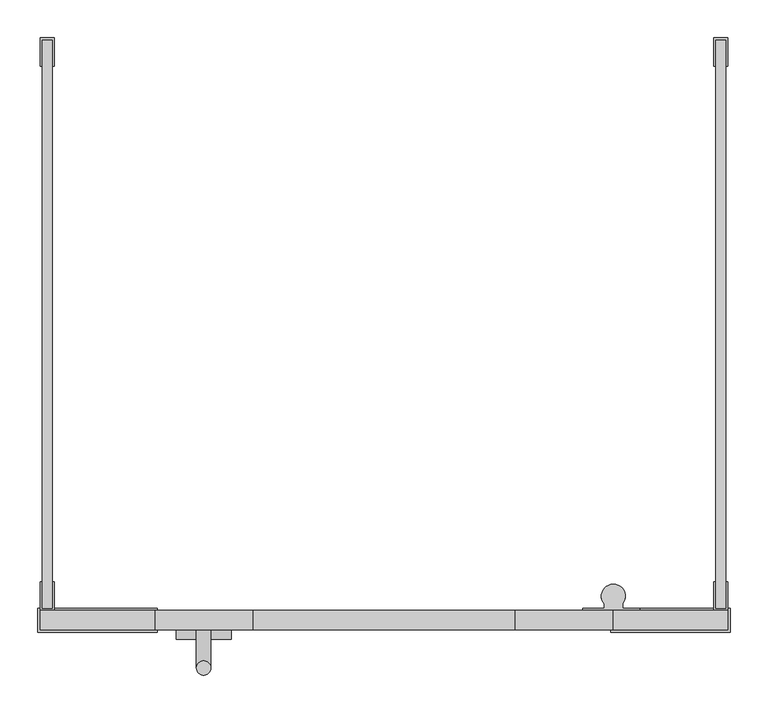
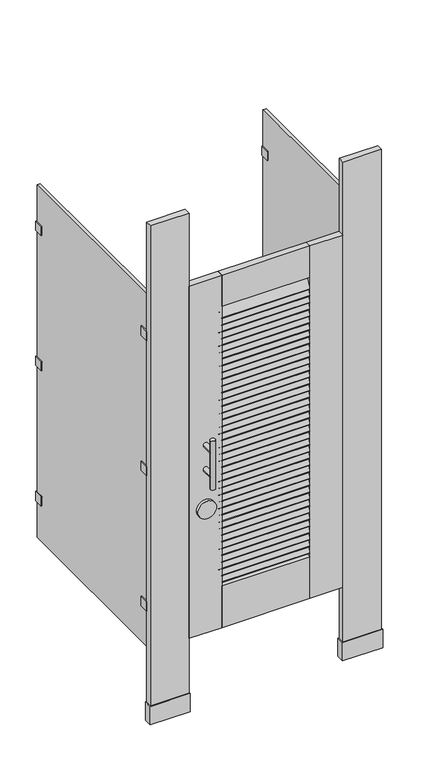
"""IFC4 building model written with IfcOpenShell, lengths in millimetres: proxy geometry, Toilet-Partition_Ironwood-Mfg_Compact-Laminate : Compact Laminate - Headrail Braced - Louver Door."""

from ifc_helpers import new_model, si_unit, point, frame, frame_2d, origin, origin_with_axes, place, context, project, spatial, polyline, circle_curve, ellipse_curve, trimmed, segment, composite_curve, outline, extrude, source, transform, mapped, element, save
from ifc_brep_helpers import plane_surface, cylinder_surface, advanced_brep


def specialty_equipment_a65be1ca(model_context):
    return source(origin(), model_context, "Body", "SolidModel", [
        extrude(outline(polyline([(701.675, -758.825), (701.675, -790.575), (542.925, -790.575), (542.925, -758.825), (701.675, -758.825)])), origin_with_axes(), (0.0, 0.0, 1.0), 76.2),
        extrude(outline(polyline([(698.5, -762.0), (698.5, -787.4), (546.1, -787.4), (546.1, -762.0), (698.5, -762.0)])), origin_with_axes(), (0.0, 0.0, 1.0), 2082.8),
        extrude(outline(polyline([(-219.075, -758.825), (-60.325, -758.825), (-60.325, -790.575), (-219.075, -790.575), (-219.075, -758.825)])), origin_with_axes(), (0.0, 0.0, 1.0), 76.2),
        extrude(outline(polyline([(-215.9, -762.0), (-63.5, -762.0), (-63.5, -787.4), (-215.9, -787.4), (-215.9, -762.0)])), origin_with_axes(), (0.0, 0.0, 1.0), 2082.8),
        extrude(outline(composite_curve([segment(polyline([(-762.7746396, 1604.8741298), (-780.7614889, 1567.9956236)]), True, "CONTINUOUS"), segment(trimmed(circle_curve(frame_2d((-783.61516, 1569.387452)), 3.175), [point((-780.7614889, 1567.9956236))], [point((-786.4688311, 1570.7792804))], False, "CARTESIAN"), True, "CONTINUOUS"), segment(polyline([(-786.4688311, 1570.7792804), (-768.4819818, 1607.6577866)]), True, "CONTINUOUS"), segment(trimmed(circle_curve(frame_2d((-765.6283107, 1606.2659582)), 3.175), [point((-768.4819818, 1607.6577866))], [point((-762.7746396, 1604.8741298))], False, "CARTESIAN"), True, "CONTINUOUS")], self_intersect=False)), frame((66.675, 0.0, 0.0), z_axis=(1.0, 0.0, 0.0), x_axis=(0.0, 1.0, 0.0)), (0.0, 0.0, 1.0), 349.25),
        extrude(outline(composite_curve([segment(polyline([(-762.7746396, 1576.5578755), (-780.7614889, 1539.6793692)]), True, "CONTINUOUS"), segment(trimmed(circle_curve(frame_2d((-783.61516, 1541.0711976)), 3.175), [point((-780.7614889, 1539.6793692))], [point((-786.4688311, 1542.463026))], False, "CARTESIAN"), True, "CONTINUOUS"), segment(polyline([(-786.4688311, 1542.463026), (-768.4819818, 1579.3415322)]), True, "CONTINUOUS"), segment(trimmed(circle_curve(frame_2d((-765.6283107, 1577.9497038)), 3.175), [point((-768.4819818, 1579.3415322))], [point((-762.7746396, 1576.5578755))], False, "CARTESIAN"), True, "CONTINUOUS")], self_intersect=False)), frame((66.675, 0.0, 0.0), z_axis=(1.0, 0.0, 0.0), x_axis=(0.0, 1.0, 0.0)), (0.0, 0.0, 1.0), 349.25),
        extrude(outline(composite_curve([segment(polyline([(-762.7746396, 1548.2416211), (-780.7614889, 1511.3631149)]), True, "CONTINUOUS"), segment(trimmed(circle_curve(frame_2d((-783.61516, 1512.7549433)), 3.175), [point((-780.7614889, 1511.3631149))], [point((-786.4688311, 1514.1467716))], False, "CARTESIAN"), True, "CONTINUOUS"), segment(polyline([(-786.4688311, 1514.1467716), (-768.4819818, 1551.0252779)]), True, "CONTINUOUS"), segment(trimmed(circle_curve(frame_2d((-765.6283107, 1549.6334495)), 3.175), [point((-768.4819818, 1551.0252779))], [point((-762.7746396, 1548.2416211))], False, "CARTESIAN"), True, "CONTINUOUS")], self_intersect=False)), frame((66.675, 0.0, 0.0), z_axis=(1.0, 0.0, 0.0), x_axis=(0.0, 1.0, 0.0)), (0.0, 0.0, 1.0), 349.25),
        extrude(outline(composite_curve([segment(polyline([(-762.7746396, 1519.9253667), (-780.7614889, 1483.0468605)]), True, "CONTINUOUS"), segment(trimmed(circle_curve(frame_2d((-783.61516, 1484.4386889)), 3.175), [point((-780.7614889, 1483.0468605))], [point((-786.4688311, 1485.8305173))], False, "CARTESIAN"), True, "CONTINUOUS"), segment(polyline([(-786.4688311, 1485.8305173), (-768.4819818, 1522.7090235)]), True, "CONTINUOUS"), segment(trimmed(circle_curve(frame_2d((-765.6283107, 1521.3171951)), 3.175), [point((-768.4819818, 1522.7090235))], [point((-762.7746396, 1519.9253667))], False, "CARTESIAN"), True, "CONTINUOUS")], self_intersect=False)), frame((66.675, 0.0, 0.0), z_axis=(1.0, 0.0, 0.0), x_axis=(0.0, 1.0, 0.0)), (0.0, 0.0, 1.0), 349.25),
        extrude(outline(composite_curve([segment(polyline([(-762.7746396, 1491.6091124), (-780.7614889, 1454.7306061)]), True, "CONTINUOUS"), segment(trimmed(circle_curve(frame_2d((-783.61516, 1456.1224345)), 3.175), [point((-780.7614889, 1454.7306061))], [point((-786.4688311, 1457.5142629))], False, "CARTESIAN"), True, "CONTINUOUS"), segment(polyline([(-786.4688311, 1457.5142629), (-768.4819818, 1494.3927691)]), True, "CONTINUOUS"), segment(trimmed(circle_curve(frame_2d((-765.6283107, 1493.0009408)), 3.175), [point((-768.4819818, 1494.3927691))], [point((-762.7746396, 1491.6091124))], False, "CARTESIAN"), True, "CONTINUOUS")], self_intersect=False)), frame((66.675, 0.0, 0.0), z_axis=(1.0, 0.0, 0.0), x_axis=(0.0, 1.0, 0.0)), (0.0, 0.0, 1.0), 349.25),
        extrude(outline(composite_curve([segment(polyline([(-762.7746396, 1463.292858), (-780.7614889, 1426.4143518)]), True, "CONTINUOUS"), segment(trimmed(circle_curve(frame_2d((-783.61516, 1427.8061802)), 3.175), [point((-780.7614889, 1426.4143518))], [point((-786.4688311, 1429.1980085))], False, "CARTESIAN"), True, "CONTINUOUS"), segment(polyline([(-786.4688311, 1429.1980085), (-768.4819818, 1466.0765148)]), True, "CONTINUOUS"), segment(trimmed(circle_curve(frame_2d((-765.6283107, 1464.6846864)), 3.175), [point((-768.4819818, 1466.0765148))], [point((-762.7746396, 1463.292858))], False, "CARTESIAN"), True, "CONTINUOUS")], self_intersect=False)), frame((66.675, 0.0, 0.0), z_axis=(1.0, 0.0, 0.0), x_axis=(0.0, 1.0, 0.0)), (0.0, 0.0, 1.0), 349.25),
        extrude(outline(composite_curve([segment(polyline([(-762.7746396, 1434.9766036), (-780.7614889, 1398.0980974)]), True, "CONTINUOUS"), segment(trimmed(circle_curve(frame_2d((-783.61516, 1399.4899258)), 3.175), [point((-780.7614889, 1398.0980974))], [point((-786.4688311, 1400.8817542))], False, "CARTESIAN"), True, "CONTINUOUS"), segment(polyline([(-786.4688311, 1400.8817542), (-768.4819818, 1437.7602604)]), True, "CONTINUOUS"), segment(trimmed(circle_curve(frame_2d((-765.6283107, 1436.368432)), 3.175), [point((-768.4819818, 1437.7602604))], [point((-762.7746396, 1434.9766036))], False, "CARTESIAN"), True, "CONTINUOUS")], self_intersect=False)), frame((66.675, 0.0, 0.0), z_axis=(1.0, 0.0, 0.0), x_axis=(0.0, 1.0, 0.0)), (0.0, 0.0, 1.0), 349.25),
        extrude(outline(composite_curve([segment(polyline([(-762.7746396, 1406.6603493), (-780.7614889, 1369.781843)]), True, "CONTINUOUS"), segment(trimmed(circle_curve(frame_2d((-783.61516, 1371.1736714)), 3.175), [point((-780.7614889, 1369.781843))], [point((-786.4688311, 1372.5654998))], False, "CARTESIAN"), True, "CONTINUOUS"), segment(polyline([(-786.4688311, 1372.5654998), (-768.4819818, 1409.444006)]), True, "CONTINUOUS"), segment(trimmed(circle_curve(frame_2d((-765.6283107, 1408.0521777)), 3.175), [point((-768.4819818, 1409.444006))], [point((-762.7746396, 1406.6603493))], False, "CARTESIAN"), True, "CONTINUOUS")], self_intersect=False)), frame((66.675, 0.0, 0.0), z_axis=(1.0, 0.0, 0.0), x_axis=(0.0, 1.0, 0.0)), (0.0, 0.0, 1.0), 349.25),
        extrude(outline(composite_curve([segment(polyline([(-762.7746396, 1378.3440949), (-780.7614889, 1341.4655887)]), True, "CONTINUOUS"), segment(trimmed(circle_curve(frame_2d((-783.61516, 1342.8574171)), 3.175), [point((-780.7614889, 1341.4655887))], [point((-786.4688311, 1344.2492455))], False, "CARTESIAN"), True, "CONTINUOUS"), segment(polyline([(-786.4688311, 1344.2492455), (-768.4819818, 1381.1277517)]), True, "CONTINUOUS"), segment(trimmed(circle_curve(frame_2d((-765.6283107, 1379.7359233)), 3.175), [point((-768.4819818, 1381.1277517))], [point((-762.7746396, 1378.3440949))], False, "CARTESIAN"), True, "CONTINUOUS")], self_intersect=False)), frame((66.675, 0.0, 0.0), z_axis=(1.0, 0.0, 0.0), x_axis=(0.0, 1.0, 0.0)), (0.0, 0.0, 1.0), 349.25),
        extrude(outline(composite_curve([segment(polyline([(-762.7746396, 1350.0278405), (-780.7614889, 1313.1493343)]), True, "CONTINUOUS"), segment(trimmed(circle_curve(frame_2d((-783.61516, 1314.5411627)), 3.175), [point((-780.7614889, 1313.1493343))], [point((-786.4688311, 1315.9329911))], False, "CARTESIAN"), True, "CONTINUOUS"), segment(polyline([(-786.4688311, 1315.9329911), (-768.4819818, 1352.8114973)]), True, "CONTINUOUS"), segment(trimmed(circle_curve(frame_2d((-765.6283107, 1351.4196689)), 3.175), [point((-768.4819818, 1352.8114973))], [point((-762.7746396, 1350.0278405))], False, "CARTESIAN"), True, "CONTINUOUS")], self_intersect=False)), frame((66.675, 0.0, 0.0), z_axis=(1.0, 0.0, 0.0), x_axis=(0.0, 1.0, 0.0)), (0.0, 0.0, 1.0), 349.25),
        extrude(outline(composite_curve([segment(polyline([(-762.7746396, 1321.7115862), (-780.7614889, 1284.8330799)]), True, "CONTINUOUS"), segment(trimmed(circle_curve(frame_2d((-783.61516, 1286.2249083)), 3.175), [point((-780.7614889, 1284.8330799))], [point((-786.4688311, 1287.6167367))], False, "CARTESIAN"), True, "CONTINUOUS"), segment(polyline([(-786.4688311, 1287.6167367), (-768.4819818, 1324.4952429)]), True, "CONTINUOUS"), segment(trimmed(circle_curve(frame_2d((-765.6283107, 1323.1034146)), 3.175), [point((-768.4819818, 1324.4952429))], [point((-762.7746396, 1321.7115862))], False, "CARTESIAN"), True, "CONTINUOUS")], self_intersect=False)), frame((66.675, 0.0, 0.0), z_axis=(1.0, 0.0, 0.0), x_axis=(0.0, 1.0, 0.0)), (0.0, 0.0, 1.0), 349.25),
        extrude(outline(composite_curve([segment(polyline([(-762.7746396, 1293.3953318), (-780.7614889, 1256.5168256)]), True, "CONTINUOUS"), segment(trimmed(circle_curve(frame_2d((-783.61516, 1257.908654)), 3.175), [point((-780.7614889, 1256.5168256))], [point((-786.4688311, 1259.3004824))], False, "CARTESIAN"), True, "CONTINUOUS"), segment(polyline([(-786.4688311, 1259.3004824), (-768.4819818, 1296.1789886)]), True, "CONTINUOUS"), segment(trimmed(circle_curve(frame_2d((-765.6283107, 1294.7871602)), 3.175), [point((-768.4819818, 1296.1789886))], [point((-762.7746396, 1293.3953318))], False, "CARTESIAN"), True, "CONTINUOUS")], self_intersect=False)), frame((66.675, 0.0, 0.0), z_axis=(1.0, 0.0, 0.0), x_axis=(0.0, 1.0, 0.0)), (0.0, 0.0, 1.0), 349.25),
        extrude(outline(composite_curve([segment(polyline([(-762.7746396, 1265.0790774), (-780.7614889, 1228.2005712)]), True, "CONTINUOUS"), segment(trimmed(circle_curve(frame_2d((-783.61516, 1229.5923996)), 3.175), [point((-780.7614889, 1228.2005712))], [point((-786.4688311, 1230.984228))], False, "CARTESIAN"), True, "CONTINUOUS"), segment(polyline([(-786.4688311, 1230.984228), (-768.4819818, 1267.8627342)]), True, "CONTINUOUS"), segment(trimmed(circle_curve(frame_2d((-765.6283107, 1266.4709058)), 3.175), [point((-768.4819818, 1267.8627342))], [point((-762.7746396, 1265.0790774))], False, "CARTESIAN"), True, "CONTINUOUS")], self_intersect=False)), frame((66.675, 0.0, 0.0), z_axis=(1.0, 0.0, 0.0), x_axis=(0.0, 1.0, 0.0)), (0.0, 0.0, 1.0), 349.25),
        extrude(outline(composite_curve([segment(polyline([(-762.7746396, 1236.7628231), (-780.7614889, 1199.8843168)]), True, "CONTINUOUS"), segment(trimmed(circle_curve(frame_2d((-783.61516, 1201.2761452)), 3.175), [point((-780.7614889, 1199.8843168))], [point((-786.4688311, 1202.6679736))], False, "CARTESIAN"), True, "CONTINUOUS"), segment(polyline([(-786.4688311, 1202.6679736), (-768.4819818, 1239.5464799)]), True, "CONTINUOUS"), segment(trimmed(circle_curve(frame_2d((-765.6283107, 1238.1546515)), 3.175), [point((-768.4819818, 1239.5464799))], [point((-762.7746396, 1236.7628231))], False, "CARTESIAN"), True, "CONTINUOUS")], self_intersect=False)), frame((66.675, 0.0, 0.0), z_axis=(1.0, 0.0, 0.0), x_axis=(0.0, 1.0, 0.0)), (0.0, 0.0, 1.0), 349.25),
        extrude(outline(composite_curve([segment(polyline([(-762.7746396, 1208.4465687), (-780.7614889, 1171.5680625)]), True, "CONTINUOUS"), segment(trimmed(circle_curve(frame_2d((-783.61516, 1172.9598909)), 3.175), [point((-780.7614889, 1171.5680625))], [point((-786.4688311, 1174.3517193))], False, "CARTESIAN"), True, "CONTINUOUS"), segment(polyline([(-786.4688311, 1174.3517193), (-768.4819818, 1211.2302255)]), True, "CONTINUOUS"), segment(trimmed(circle_curve(frame_2d((-765.6283107, 1209.8383971)), 3.175), [point((-768.4819818, 1211.2302255))], [point((-762.7746396, 1208.4465687))], False, "CARTESIAN"), True, "CONTINUOUS")], self_intersect=False)), frame((66.675, 0.0, 0.0), z_axis=(1.0, 0.0, 0.0), x_axis=(0.0, 1.0, 0.0)), (0.0, 0.0, 1.0), 349.25),
        extrude(outline(composite_curve([segment(polyline([(-762.7746396, 1180.1303143), (-780.7614889, 1143.2518081)]), True, "CONTINUOUS"), segment(trimmed(circle_curve(frame_2d((-783.61516, 1144.6436365)), 3.175), [point((-780.7614889, 1143.2518081))], [point((-786.4688311, 1146.0354649))], False, "CARTESIAN"), True, "CONTINUOUS"), segment(polyline([(-786.4688311, 1146.0354649), (-768.4819818, 1182.9139711)]), True, "CONTINUOUS"), segment(trimmed(circle_curve(frame_2d((-765.6283107, 1181.5221427)), 3.175), [point((-768.4819818, 1182.9139711))], [point((-762.7746396, 1180.1303143))], False, "CARTESIAN"), True, "CONTINUOUS")], self_intersect=False)), frame((66.675, 0.0, 0.0), z_axis=(1.0, 0.0, 0.0), x_axis=(0.0, 1.0, 0.0)), (0.0, 0.0, 1.0), 349.25),
        extrude(outline(composite_curve([segment(polyline([(-762.7746396, 1151.81406), (-780.7614889, 1114.9355537)]), True, "CONTINUOUS"), segment(trimmed(circle_curve(frame_2d((-783.61516, 1116.3273821)), 3.175), [point((-780.7614889, 1114.9355537))], [point((-786.4688311, 1117.7192105))], False, "CARTESIAN"), True, "CONTINUOUS"), segment(polyline([(-786.4688311, 1117.7192105), (-768.4819818, 1154.5977168)]), True, "CONTINUOUS"), segment(trimmed(circle_curve(frame_2d((-765.6283107, 1153.2058884)), 3.175), [point((-768.4819818, 1154.5977168))], [point((-762.7746396, 1151.81406))], False, "CARTESIAN"), True, "CONTINUOUS")], self_intersect=False)), frame((66.675, 0.0, 0.0), z_axis=(1.0, 0.0, 0.0), x_axis=(0.0, 1.0, 0.0)), (0.0, 0.0, 1.0), 349.25),
        extrude(outline(composite_curve([segment(polyline([(-762.7746396, 1123.4978056), (-780.7614889, 1086.6192994)]), True, "CONTINUOUS"), segment(trimmed(circle_curve(frame_2d((-783.61516, 1088.0111278)), 3.175), [point((-780.7614889, 1086.6192994))], [point((-786.4688311, 1089.4029562))], False, "CARTESIAN"), True, "CONTINUOUS"), segment(polyline([(-786.4688311, 1089.4029562), (-768.4819818, 1126.2814624)]), True, "CONTINUOUS"), segment(trimmed(circle_curve(frame_2d((-765.6283107, 1124.889634)), 3.175), [point((-768.4819818, 1126.2814624))], [point((-762.7746396, 1123.4978056))], False, "CARTESIAN"), True, "CONTINUOUS")], self_intersect=False)), frame((66.675, 0.0, 0.0), z_axis=(1.0, 0.0, 0.0), x_axis=(0.0, 1.0, 0.0)), (0.0, 0.0, 1.0), 349.25),
        extrude(outline(composite_curve([segment(polyline([(-762.7746396, 1095.1815512), (-780.7614889, 1058.303045)]), True, "CONTINUOUS"), segment(trimmed(circle_curve(frame_2d((-783.61516, 1059.6948734)), 3.175), [point((-780.7614889, 1058.303045))], [point((-786.4688311, 1061.0867018))], False, "CARTESIAN"), True, "CONTINUOUS"), segment(polyline([(-786.4688311, 1061.0867018), (-768.4819818, 1097.965208)]), True, "CONTINUOUS"), segment(trimmed(circle_curve(frame_2d((-765.6283107, 1096.5733796)), 3.175), [point((-768.4819818, 1097.965208))], [point((-762.7746396, 1095.1815512))], False, "CARTESIAN"), True, "CONTINUOUS")], self_intersect=False)), frame((66.675, 0.0, 0.0), z_axis=(1.0, 0.0, 0.0), x_axis=(0.0, 1.0, 0.0)), (0.0, 0.0, 1.0), 349.25),
        extrude(outline(composite_curve([segment(polyline([(-762.7746396, 1066.8652969), (-780.7614889, 1029.9867907)]), True, "CONTINUOUS"), segment(trimmed(circle_curve(frame_2d((-783.61516, 1031.378619)), 3.175), [point((-780.7614889, 1029.9867907))], [point((-786.4688311, 1032.7704474))], False, "CARTESIAN"), True, "CONTINUOUS"), segment(polyline([(-786.4688311, 1032.7704474), (-768.4819818, 1069.6489537)]), True, "CONTINUOUS"), segment(trimmed(circle_curve(frame_2d((-765.6283107, 1068.2571253)), 3.175), [point((-768.4819818, 1069.6489537))], [point((-762.7746396, 1066.8652969))], False, "CARTESIAN"), True, "CONTINUOUS")], self_intersect=False)), frame((66.675, 0.0, 0.0), z_axis=(1.0, 0.0, 0.0), x_axis=(0.0, 1.0, 0.0)), (0.0, 0.0, 1.0), 349.25),
        extrude(outline(composite_curve([segment(polyline([(-762.7746396, 1038.5490425), (-780.7614889, 1001.6705363)]), True, "CONTINUOUS"), segment(trimmed(circle_curve(frame_2d((-783.61516, 1003.0623647)), 3.175), [point((-780.7614889, 1001.6705363))], [point((-786.4688311, 1004.4541931))], False, "CARTESIAN"), True, "CONTINUOUS"), segment(polyline([(-786.4688311, 1004.4541931), (-768.4819818, 1041.3326993)]), True, "CONTINUOUS"), segment(trimmed(circle_curve(frame_2d((-765.6283107, 1039.9408709)), 3.175), [point((-768.4819818, 1041.3326993))], [point((-762.7746396, 1038.5490425))], False, "CARTESIAN"), True, "CONTINUOUS")], self_intersect=False)), frame((66.675, 0.0, 0.0), z_axis=(1.0, 0.0, 0.0), x_axis=(0.0, 1.0, 0.0)), (0.0, 0.0, 1.0), 349.25),
        extrude(outline(composite_curve([segment(polyline([(-762.7746396, 1010.2327881), (-780.7614889, 973.3542819)]), True, "CONTINUOUS"), segment(trimmed(circle_curve(frame_2d((-783.61516, 974.7461103)), 3.175), [point((-780.7614889, 973.3542819))], [point((-786.4688311, 976.1379387))], False, "CARTESIAN"), True, "CONTINUOUS"), segment(polyline([(-786.4688311, 976.1379387), (-768.4819818, 1013.0164449)]), True, "CONTINUOUS"), segment(trimmed(circle_curve(frame_2d((-765.6283107, 1011.6246165)), 3.175), [point((-768.4819818, 1013.0164449))], [point((-762.7746396, 1010.2327881))], False, "CARTESIAN"), True, "CONTINUOUS")], self_intersect=False)), frame((66.675, 0.0, 0.0), z_axis=(1.0, 0.0, 0.0), x_axis=(0.0, 1.0, 0.0)), (0.0, 0.0, 1.0), 349.25),
        extrude(outline(composite_curve([segment(polyline([(-762.7746396, 981.9165338), (-780.7614889, 945.0380276)]), True, "CONTINUOUS"), segment(trimmed(circle_curve(frame_2d((-783.61516, 946.4298559)), 3.175), [point((-780.7614889, 945.0380276))], [point((-786.4688311, 947.8216843))], False, "CARTESIAN"), True, "CONTINUOUS"), segment(polyline([(-786.4688311, 947.8216843), (-768.4819818, 984.7001906)]), True, "CONTINUOUS"), segment(trimmed(circle_curve(frame_2d((-765.6283107, 983.3083622)), 3.175), [point((-768.4819818, 984.7001906))], [point((-762.7746396, 981.9165338))], False, "CARTESIAN"), True, "CONTINUOUS")], self_intersect=False)), frame((66.675, 0.0, 0.0), z_axis=(1.0, 0.0, 0.0), x_axis=(0.0, 1.0, 0.0)), (0.0, 0.0, 1.0), 349.25),
        extrude(outline(composite_curve([segment(polyline([(-762.7746396, 953.6002794), (-780.7614889, 916.7217732)]), True, "CONTINUOUS"), segment(trimmed(circle_curve(frame_2d((-783.61516, 918.1136016)), 3.175), [point((-780.7614889, 916.7217732))], [point((-786.4688311, 919.50543))], False, "CARTESIAN"), True, "CONTINUOUS"), segment(polyline([(-786.4688311, 919.50543), (-768.4819818, 956.3839362)]), True, "CONTINUOUS"), segment(trimmed(circle_curve(frame_2d((-765.6283107, 954.9921078)), 3.175), [point((-768.4819818, 956.3839362))], [point((-762.7746396, 953.6002794))], False, "CARTESIAN"), True, "CONTINUOUS")], self_intersect=False)), frame((66.675, 0.0, 0.0), z_axis=(1.0, 0.0, 0.0), x_axis=(0.0, 1.0, 0.0)), (0.0, 0.0, 1.0), 349.25),
        extrude(outline(composite_curve([segment(polyline([(-762.7746396, 925.284025), (-780.7614889, 888.4055188)]), True, "CONTINUOUS"), segment(trimmed(circle_curve(frame_2d((-783.61516, 889.7973472)), 3.175), [point((-780.7614889, 888.4055188))], [point((-786.4688311, 891.1891756))], False, "CARTESIAN"), True, "CONTINUOUS"), segment(polyline([(-786.4688311, 891.1891756), (-768.4819818, 928.0676818)]), True, "CONTINUOUS"), segment(trimmed(circle_curve(frame_2d((-765.6283107, 926.6758534)), 3.175), [point((-768.4819818, 928.0676818))], [point((-762.7746396, 925.284025))], False, "CARTESIAN"), True, "CONTINUOUS")], self_intersect=False)), frame((66.675, 0.0, 0.0), z_axis=(1.0, 0.0, 0.0), x_axis=(0.0, 1.0, 0.0)), (0.0, 0.0, 1.0), 349.25),
        extrude(outline(composite_curve([segment(polyline([(-762.7746396, 896.9677707), (-780.7614889, 860.0892645)]), True, "CONTINUOUS"), segment(trimmed(circle_curve(frame_2d((-783.61516, 861.4810928)), 3.175), [point((-780.7614889, 860.0892645))], [point((-786.4688311, 862.8729212))], False, "CARTESIAN"), True, "CONTINUOUS"), segment(polyline([(-786.4688311, 862.8729212), (-768.4819818, 899.7514275)]), True, "CONTINUOUS"), segment(trimmed(circle_curve(frame_2d((-765.6283107, 898.3595991)), 3.175), [point((-768.4819818, 899.7514275))], [point((-762.7746396, 896.9677707))], False, "CARTESIAN"), True, "CONTINUOUS")], self_intersect=False)), frame((66.675, 0.0, 0.0), z_axis=(1.0, 0.0, 0.0), x_axis=(0.0, 1.0, 0.0)), (0.0, 0.0, 1.0), 349.25),
        extrude(outline(composite_curve([segment(polyline([(-762.7746396, 868.6515163), (-780.7614889, 831.7730101)]), True, "CONTINUOUS"), segment(trimmed(circle_curve(frame_2d((-783.61516, 833.1648385)), 3.175), [point((-780.7614889, 831.7730101))], [point((-786.4688311, 834.5566669))], False, "CARTESIAN"), True, "CONTINUOUS"), segment(polyline([(-786.4688311, 834.5566669), (-768.4819818, 871.4351731)]), True, "CONTINUOUS"), segment(trimmed(circle_curve(frame_2d((-765.6283107, 870.0433447)), 3.175), [point((-768.4819818, 871.4351731))], [point((-762.7746396, 868.6515163))], False, "CARTESIAN"), True, "CONTINUOUS")], self_intersect=False)), frame((66.675, 0.0, 0.0), z_axis=(1.0, 0.0, 0.0), x_axis=(0.0, 1.0, 0.0)), (0.0, 0.0, 1.0), 349.25),
        extrude(outline(composite_curve([segment(polyline([(-762.7746396, 840.335262), (-780.7614889, 803.4567557)]), True, "CONTINUOUS"), segment(trimmed(circle_curve(frame_2d((-783.61516, 804.8485841)), 3.175), [point((-780.7614889, 803.4567557))], [point((-786.4688311, 806.2404125))], False, "CARTESIAN"), True, "CONTINUOUS"), segment(polyline([(-786.4688311, 806.2404125), (-768.4819818, 843.1189187)]), True, "CONTINUOUS"), segment(trimmed(circle_curve(frame_2d((-765.6283107, 841.7270903)), 3.175), [point((-768.4819818, 843.1189187))], [point((-762.7746396, 840.335262))], False, "CARTESIAN"), True, "CONTINUOUS")], self_intersect=False)), frame((66.675, 0.0, 0.0), z_axis=(1.0, 0.0, 0.0), x_axis=(0.0, 1.0, 0.0)), (0.0, 0.0, 1.0), 349.25),
        extrude(outline(composite_curve([segment(polyline([(-762.7746396, 812.0190076), (-780.7614889, 775.1405014)]), True, "CONTINUOUS"), segment(trimmed(circle_curve(frame_2d((-783.61516, 776.5323298)), 3.175), [point((-780.7614889, 775.1405014))], [point((-786.4688311, 777.9241581))], False, "CARTESIAN"), True, "CONTINUOUS"), segment(polyline([(-786.4688311, 777.9241581), (-768.4819818, 814.8026644)]), True, "CONTINUOUS"), segment(trimmed(circle_curve(frame_2d((-765.6283107, 813.410836)), 3.175), [point((-768.4819818, 814.8026644))], [point((-762.7746396, 812.0190076))], False, "CARTESIAN"), True, "CONTINUOUS")], self_intersect=False)), frame((66.675, 0.0, 0.0), z_axis=(1.0, 0.0, 0.0), x_axis=(0.0, 1.0, 0.0)), (0.0, 0.0, 1.0), 349.25),
        extrude(outline(composite_curve([segment(polyline([(-762.7746396, 783.7027532), (-780.7614889, 746.824247)]), True, "CONTINUOUS"), segment(trimmed(circle_curve(frame_2d((-783.61516, 748.2160754)), 3.175), [point((-780.7614889, 746.824247))], [point((-786.4688311, 749.6079038))], False, "CARTESIAN"), True, "CONTINUOUS"), segment(polyline([(-786.4688311, 749.6079038), (-768.4819818, 786.48641)]), True, "CONTINUOUS"), segment(trimmed(circle_curve(frame_2d((-765.6283107, 785.0945816)), 3.175), [point((-768.4819818, 786.48641))], [point((-762.7746396, 783.7027532))], False, "CARTESIAN"), True, "CONTINUOUS")], self_intersect=False)), frame((66.675, 0.0, 0.0), z_axis=(1.0, 0.0, 0.0), x_axis=(0.0, 1.0, 0.0)), (0.0, 0.0, 1.0), 349.25),
        extrude(outline(composite_curve([segment(polyline([(-762.7746396, 755.3864989), (-780.7614889, 718.5079926)]), True, "CONTINUOUS"), segment(trimmed(circle_curve(frame_2d((-783.61516, 719.899821)), 3.175), [point((-780.7614889, 718.5079926))], [point((-786.4688311, 721.2916494))], False, "CARTESIAN"), True, "CONTINUOUS"), segment(polyline([(-786.4688311, 721.2916494), (-768.4819818, 758.1701556)]), True, "CONTINUOUS"), segment(trimmed(circle_curve(frame_2d((-765.6283107, 756.7783272)), 3.175), [point((-768.4819818, 758.1701556))], [point((-762.7746396, 755.3864989))], False, "CARTESIAN"), True, "CONTINUOUS")], self_intersect=False)), frame((66.675, 0.0, 0.0), z_axis=(1.0, 0.0, 0.0), x_axis=(0.0, 1.0, 0.0)), (0.0, 0.0, 1.0), 349.25),
        extrude(outline(composite_curve([segment(polyline([(-762.7746396, 727.0702445), (-780.7614889, 690.1917383)]), True, "CONTINUOUS"), segment(trimmed(circle_curve(frame_2d((-783.61516, 691.5835667)), 3.175), [point((-780.7614889, 690.1917383))], [point((-786.4688311, 692.975395))], False, "CARTESIAN"), True, "CONTINUOUS"), segment(polyline([(-786.4688311, 692.975395), (-768.4819818, 729.8539013)]), True, "CONTINUOUS"), segment(trimmed(circle_curve(frame_2d((-765.6283107, 728.4620729)), 3.175), [point((-768.4819818, 729.8539013))], [point((-762.7746396, 727.0702445))], False, "CARTESIAN"), True, "CONTINUOUS")], self_intersect=False)), frame((66.675, 0.0, 0.0), z_axis=(1.0, 0.0, 0.0), x_axis=(0.0, 1.0, 0.0)), (0.0, 0.0, 1.0), 349.25),
        extrude(outline(composite_curve([segment(polyline([(-762.7746396, 698.7539901), (-780.7614889, 661.8754839)]), True, "CONTINUOUS"), segment(trimmed(circle_curve(frame_2d((-783.61516, 663.2673123)), 3.175), [point((-780.7614889, 661.8754839))], [point((-786.4688311, 664.6591407))], False, "CARTESIAN"), True, "CONTINUOUS"), segment(polyline([(-786.4688311, 664.6591407), (-768.4819818, 701.5376469)]), True, "CONTINUOUS"), segment(trimmed(circle_curve(frame_2d((-765.6283107, 700.1458185)), 3.175), [point((-768.4819818, 701.5376469))], [point((-762.7746396, 698.7539901))], False, "CARTESIAN"), True, "CONTINUOUS")], self_intersect=False)), frame((66.675, 0.0, 0.0), z_axis=(1.0, 0.0, 0.0), x_axis=(0.0, 1.0, 0.0)), (0.0, 0.0, 1.0), 349.25),
        extrude(outline(composite_curve([segment(polyline([(-762.7746396, 670.4377358), (-780.7614889, 633.5592295)]), True, "CONTINUOUS"), segment(trimmed(circle_curve(frame_2d((-783.61516, 634.9510579)), 3.175), [point((-780.7614889, 633.5592295))], [point((-786.4688311, 636.3428863))], False, "CARTESIAN"), True, "CONTINUOUS"), segment(polyline([(-786.4688311, 636.3428863), (-768.4819818, 673.2213925)]), True, "CONTINUOUS"), segment(trimmed(circle_curve(frame_2d((-765.6283107, 671.8295642)), 3.175), [point((-768.4819818, 673.2213925))], [point((-762.7746396, 670.4377358))], False, "CARTESIAN"), True, "CONTINUOUS")], self_intersect=False)), frame((66.675, 0.0, 0.0), z_axis=(1.0, 0.0, 0.0), x_axis=(0.0, 1.0, 0.0)), (0.0, 0.0, 1.0), 349.25),
        extrude(outline(composite_curve([segment(polyline([(-762.7746396, 642.1214814), (-780.7614889, 605.2429752)]), True, "CONTINUOUS"), segment(trimmed(circle_curve(frame_2d((-783.61516, 606.6348036)), 3.175), [point((-780.7614889, 605.2429752))], [point((-786.4688311, 608.026632))], False, "CARTESIAN"), True, "CONTINUOUS"), segment(polyline([(-786.4688311, 608.026632), (-768.4819818, 644.9051382)]), True, "CONTINUOUS"), segment(trimmed(circle_curve(frame_2d((-765.6283107, 643.5133098)), 3.175), [point((-768.4819818, 644.9051382))], [point((-762.7746396, 642.1214814))], False, "CARTESIAN"), True, "CONTINUOUS")], self_intersect=False)), frame((66.675, 0.0, 0.0), z_axis=(1.0, 0.0, 0.0), x_axis=(0.0, 1.0, 0.0)), (0.0, 0.0, 1.0), 349.25),
        extrude(outline(composite_curve([segment(polyline([(-762.7746396, 613.805227), (-780.7614889, 576.9267208)]), True, "CONTINUOUS"), segment(trimmed(circle_curve(frame_2d((-783.61516, 578.3185492)), 3.175), [point((-780.7614889, 576.9267208))], [point((-786.4688311, 579.7103776))], False, "CARTESIAN"), True, "CONTINUOUS"), segment(polyline([(-786.4688311, 579.7103776), (-768.4819818, 616.5888838)]), True, "CONTINUOUS"), segment(trimmed(circle_curve(frame_2d((-765.6283107, 615.1970554)), 3.175), [point((-768.4819818, 616.5888838))], [point((-762.7746396, 613.805227))], False, "CARTESIAN"), True, "CONTINUOUS")], self_intersect=False)), frame((66.675, 0.0, 0.0), z_axis=(1.0, 0.0, 0.0), x_axis=(0.0, 1.0, 0.0)), (0.0, 0.0, 1.0), 349.25),
        extrude(outline(composite_curve([segment(polyline([(-762.7746396, 585.4889727), (-780.7614889, 548.6104664)]), True, "CONTINUOUS"), segment(trimmed(circle_curve(frame_2d((-783.61516, 550.0022948)), 3.175), [point((-780.7614889, 548.6104664))], [point((-786.4688311, 551.3941232))], False, "CARTESIAN"), True, "CONTINUOUS"), segment(polyline([(-786.4688311, 551.3941232), (-768.4819818, 588.2726294)]), True, "CONTINUOUS"), segment(trimmed(circle_curve(frame_2d((-765.6283107, 586.8808011)), 3.175), [point((-768.4819818, 588.2726294))], [point((-762.7746396, 585.4889727))], False, "CARTESIAN"), True, "CONTINUOUS")], self_intersect=False)), frame((66.675, 0.0, 0.0), z_axis=(1.0, 0.0, 0.0), x_axis=(0.0, 1.0, 0.0)), (0.0, 0.0, 1.0), 349.25),
        extrude(outline(composite_curve([segment(polyline([(-762.7746396, 557.1727183), (-780.7614889, 520.2942121)]), True, "CONTINUOUS"), segment(trimmed(circle_curve(frame_2d((-783.61516, 521.6860405)), 3.175), [point((-780.7614889, 520.2942121))], [point((-786.4688311, 523.0778689))], False, "CARTESIAN"), True, "CONTINUOUS"), segment(polyline([(-786.4688311, 523.0778689), (-768.4819818, 559.9563751)]), True, "CONTINUOUS"), segment(trimmed(circle_curve(frame_2d((-765.6283107, 558.5645467)), 3.175), [point((-768.4819818, 559.9563751))], [point((-762.7746396, 557.1727183))], False, "CARTESIAN"), True, "CONTINUOUS")], self_intersect=False)), frame((66.675, 0.0, 0.0), z_axis=(1.0, 0.0, 0.0), x_axis=(0.0, 1.0, 0.0)), (0.0, 0.0, 1.0), 349.25),
        extrude(outline(composite_curve([segment(polyline([(-762.7746396, 1633.1903842), (-780.7614889, 1596.311878)]), True, "CONTINUOUS"), segment(trimmed(circle_curve(frame_2d((-783.61516, 1597.7037064)), 3.175), [point((-780.7614889, 1596.311878))], [point((-786.4688311, 1599.0955347))], False, "CARTESIAN"), True, "CONTINUOUS"), segment(polyline([(-786.4688311, 1599.0955347), (-768.4819818, 1635.974041)]), True, "CONTINUOUS"), segment(trimmed(circle_curve(frame_2d((-765.6283107, 1634.5822126)), 3.175), [point((-768.4819818, 1635.974041))], [point((-762.7746396, 1633.1903842))], False, "CARTESIAN"), True, "CONTINUOUS")], self_intersect=False)), frame((66.675, 0.0, 0.0), z_axis=(1.0, 0.0, 0.0), x_axis=(0.0, 1.0, 0.0)), (0.0, 0.0, 1.0), 349.25),
        extrude(outline(composite_curve([segment(polyline([(-762.7746396, 528.8564639), (-780.7614889, 491.9779577)]), True, "CONTINUOUS"), segment(trimmed(circle_curve(frame_2d((-783.61516, 493.3697861)), 3.175), [point((-780.7614889, 491.9779577))], [point((-786.4688311, 494.7616145))], False, "CARTESIAN"), True, "CONTINUOUS"), segment(polyline([(-786.4688311, 494.7616145), (-768.4819818, 531.6401207)]), True, "CONTINUOUS"), segment(trimmed(circle_curve(frame_2d((-765.6283107, 530.2482923)), 3.175), [point((-768.4819818, 531.6401207))], [point((-762.7746396, 528.8564639))], False, "CARTESIAN"), True, "CONTINUOUS")], self_intersect=False)), frame((66.675, 0.0, 0.0), z_axis=(1.0, 0.0, 0.0), x_axis=(0.0, 1.0, 0.0)), (0.0, 0.0, 1.0), 349.25),
        extrude(outline(polyline([(66.675, -762.0), (66.675, -787.4), (-63.5, -787.4), (-63.5, -762.0), (66.675, -762.0)])), frame((0.0, 0.0, 304.8), z_axis=(0.0, 0.0, 1.0), x_axis=(1.0, 0.0, 0.0)), (0.0, 0.0, 1.0), 1473.2),
        extrude(outline(polyline([(415.925, -762.0), (546.1, -762.0), (546.1, -787.4), (415.925, -787.4), (415.925, -762.0)])), frame((0.0, 0.0, 304.8), z_axis=(0.0, 0.0, 1.0), x_axis=(1.0, 0.0, 0.0)), (0.0, 0.0, 1.0), 1473.2),
        extrude(outline(polyline([(415.925, -762.0), (415.925, -787.4), (66.675, -787.4), (66.675, -762.0), (415.925, -762.0)])), frame((0.0, 0.0, 1647.825), z_axis=(0.0, 0.0, 1.0), x_axis=(1.0, 0.0, 0.0)), (0.0, 0.0, 1.0), 130.175),
        extrude(outline(polyline([(415.925, -762.0), (415.925, -787.4), (66.675, -787.4), (66.675, -762.0), (415.925, -762.0)])), frame((0.0, 0.0, 304.8), z_axis=(0.0, 0.0, 1.0), x_axis=(1.0, 0.0, 0.0)), (0.0, 0.0, 1.0), 174.625),
        extrude(outline(composite_curve([segment(trimmed(circle_curve(frame_2d((827.0875, 1.5875)), 36.5125), [point((827.0875, -34.925))], [point((827.0875, 38.1))], False, "CARTESIAN"), True, "CONTINUOUS"), segment(trimmed(circle_curve(frame_2d((827.0875, 1.5875)), 36.5125), [point((827.0875, 38.1))], [point((827.0875, -34.925))], False, "CARTESIAN"), True, "CONTINUOUS")], self_intersect=False)), frame((0.0, -800.1, 0.0), z_axis=(0.0, 1.0, 0.0), x_axis=(0.0, 0.0, 1.0)), (0.0, 0.0, 1.0), 12.7),
        advanced_brep(
        [(-7.9375, -787.4, 1092.2), (11.1125, -787.4, 1092.2), (-7.9375, -787.4, 990.6), (11.1125, -787.4, 990.6), (11.1125, -838.2, 1092.2), (-7.9375, -838.2, 1092.2), (11.1125, -838.2, 990.6), (-7.9375, -838.2, 990.6), (-7.9375, -838.2, 1143.0), (11.1125, -838.2, 1143.0), (-7.9375, -838.2, 939.8), (11.1125, -838.2, 939.8)],
        [
            (0, 1, circle_curve(frame((1.5875, -787.4, 1092.2), z_axis=(0.0, 1.0, 0.0), x_axis=(1.0, 0.0, 0.0)), 9.525)),
            (1, 0, circle_curve(frame((1.5875, -787.4, 1092.2), z_axis=(0.0, 1.0, 0.0), x_axis=(1.0, 0.0, 0.0)), 9.525)),
            (2, 3, circle_curve(frame((1.5875, -787.4, 990.6), z_axis=(0.0, 1.0, 0.0), x_axis=(1.0, 0.0, 0.0)), 9.525)),
            (3, 2, circle_curve(frame((1.5875, -787.4, 990.6), z_axis=(0.0, 1.0, 0.0), x_axis=(1.0, 0.0, 0.0)), 9.525)),
            (1, 4),
            (4, 5, ellipse_curve(frame((1.5875, -838.2, 1092.2), z_axis=(0.0, 0.7071067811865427, 0.7071067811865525), x_axis=(0.0, -0.7071067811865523, 0.7071067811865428)), 13.4703842, 9.525)),
            (5, 0),
            (5, 4, ellipse_curve(frame((1.5875, -838.2, 1092.2), z_axis=(0.0, 0.7071067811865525, -0.7071067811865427), x_axis=(0.0, -0.7071067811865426, -0.7071067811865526)), 13.4703842, 9.525)),
            (3, 6),
            (6, 7, ellipse_curve(frame((1.5875, -838.2, 990.6), z_axis=(0.0, 0.7071067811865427, 0.7071067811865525), x_axis=(0.0, -0.7071067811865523, 0.7071067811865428)), 13.4703842, 9.525)),
            (7, 2),
            (7, 6, ellipse_curve(frame((1.5875, -838.2, 990.6), z_axis=(0.0, 0.7071067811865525, -0.7071067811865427), x_axis=(0.0, -0.7071067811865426, -0.7071067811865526)), 13.4703842, 9.525)),
            (8, 9, circle_curve(frame((1.5875, -838.2, 1143.0), z_axis=(0.0, 0.0, 1.0), x_axis=(1.0, 0.0, 0.0)), 9.525)),
            (9, 8, circle_curve(frame((1.5875, -838.2, 1143.0), z_axis=(0.0, 0.0, 1.0), x_axis=(1.0, 0.0, 0.0)), 9.525)),
            (10, 11, circle_curve(frame((1.5875, -838.2, 939.8), z_axis=(0.0, 0.0, -1.0), x_axis=(1.0, 0.0, 0.0)), 9.525)),
            (11, 10, circle_curve(frame((1.5875, -838.2, 939.8), z_axis=(0.0, 0.0, -1.0), x_axis=(1.0, 0.0, 0.0)), 9.525)),
            (8, 5),
            (5, 7),
            (7, 10),
            (11, 6),
            (6, 4),
            (4, 9),
        ],
        [
            plane_surface(frame((11.1125, -787.4, 1092.2), z_axis=(0.0, 1.0, 0.0), x_axis=(0.0, 0.0, -1.0))),
            cylinder_surface(frame((1.5875, -787.4, 1092.2), z_axis=(0.0, -1.0, 0.0), x_axis=(1.0, 0.0, 0.0)), 9.525),
            cylinder_surface(frame((1.5875, -787.4, 990.6), z_axis=(0.0, -1.0, 0.0), x_axis=(1.0, 0.0, 0.0)), 9.525),
            plane_surface(frame((11.1125, -838.2, 1143.0), z_axis=(0.0, 0.0, 1.0), x_axis=(0.0, 1.0, 0.0))),
            plane_surface(frame((11.1125, -838.2, 939.8), z_axis=(0.0, 0.0, -1.0), x_axis=(0.0, -1.0, 0.0))),
            cylinder_surface(frame((1.5875, -838.2, 939.8), z_axis=(0.0, 0.0, 1.0), x_axis=(1.0, 0.0, 0.0)), 9.525),
        ],
        [
            (0, [[1, 2]]),
            (0, [[3, 4]]),
            (1, [[-2, 5, 6, 7]]),
            (1, [[-1, -7, 8, -5]]),
            (2, [[-4, 9, 10, 11]]),
            (2, [[-3, -11, 12, -9]]),
            (3, [[13, 14]]),
            (4, [[15, 16]]),
            (5, [[-13, 17, 18, 19, -16, 20, 21, 22]]),
            (5, [[-14, -22, -8, -17]]),
            (5, [[-15, -19, -10, -20]]),
            (5, [[-18, -6, -21, -12]]),
        ],
    ),
        extrude(outline(composite_curve([segment(polyline([(581.3737081, -762.0), (505.1737081, -762.0), (505.1737081, -758.825), (533.7487081, -758.825), (533.7487081, -752.9581331)]), True, "CONTINUOUS"), segment(trimmed(circle_curve(frame_2d((546.1, -742.8902139)), 15.9347861), [point((533.7487081, -752.9581331))], [point((558.4512919, -752.9581331))], False, "CARTESIAN"), True, "CONTINUOUS"), segment(polyline([(558.4512919, -752.9581331), (558.4512919, -758.825), (581.3737081, -758.825), (581.3737081, -762.0)]), True, "CONTINUOUS")], self_intersect=False)), frame((0.0, 0.0, 1574.8), z_axis=(0.0, 0.0, 1.0), x_axis=(1.0, 0.0, 0.0)), (0.0, 0.0, 1.0), 63.5),
        extrude(outline(composite_curve([segment(polyline([(581.3737081, -762.0), (505.1737081, -762.0), (505.1737081, -758.825), (533.7487081, -758.825), (533.7487081, -752.9581331)]), True, "CONTINUOUS"), segment(trimmed(circle_curve(frame_2d((546.1, -742.8902139)), 15.9347861), [point((533.7487081, -752.9581331))], [point((558.4512919, -752.9581331))], False, "CARTESIAN"), True, "CONTINUOUS"), segment(polyline([(558.4512919, -752.9581331), (558.4512919, -758.825), (581.3737081, -758.825), (581.3737081, -762.0)]), True, "CONTINUOUS")], self_intersect=False)), frame((0.0, 0.0, 1009.6500001), z_axis=(0.0, 0.0, 1.0), x_axis=(1.0, 0.0, 0.0)), (0.0, 0.0, 1.0), 63.5),
        extrude(outline(composite_curve([segment(polyline([(581.3737081, -762.0), (505.1737081, -762.0), (505.1737081, -758.825), (533.7487081, -758.825), (533.7487081, -752.9581331)]), True, "CONTINUOUS"), segment(trimmed(circle_curve(frame_2d((546.1, -742.8902139)), 15.9347861), [point((533.7487081, -752.9581331))], [point((558.4512919, -752.9581331))], False, "CARTESIAN"), True, "CONTINUOUS"), segment(polyline([(558.4512919, -752.9581331), (558.4512919, -758.825), (581.3737081, -758.825), (581.3737081, -762.0)]), True, "CONTINUOUS")], self_intersect=False)), frame((0.0, 0.0, 444.5), z_axis=(0.0, 0.0, 1.0), x_axis=(1.0, 0.0, 0.0)), (0.0, 0.0, 1.0), 63.5),
        extrude(outline(polyline([(682.498, -723.9), (682.498, -758.825), (695.198, -758.825), (695.198, -723.9), (698.373, -723.9), (698.373, -762.0), (679.323, -762.0), (679.323, -723.9), (682.498, -723.9)])), frame((0.0, 0.0, 1587.8188137), z_axis=(0.0, 0.0, 1.0), x_axis=(1.0, 0.0, 0.0)), (0.0, 0.0, 1.0), 38.1),
        extrude(outline(polyline([(682.498, -38.1), (679.323, -38.1), (679.323, 0.0), (698.373, 0.0), (698.373, -38.1), (695.198, -38.1), (695.198, -3.175), (682.498, -3.175), (682.498, -38.1)])), frame((0.0, 0.0, 1587.8188137), z_axis=(0.0, 0.0, 1.0), x_axis=(1.0, 0.0, 0.0)), (0.0, 0.0, 1.0), 38.1),
        extrude(outline(polyline([(682.498, -723.9), (682.498, -758.825), (695.198, -758.825), (695.198, -723.9), (698.373, -723.9), (698.373, -762.0), (679.323, -762.0), (679.323, -723.9), (682.498, -723.9)])), frame((0.0, 0.0, 1022.35), z_axis=(0.0, 0.0, 1.0), x_axis=(1.0, 0.0, 0.0)), (0.0, 0.0, 1.0), 38.1),
        extrude(outline(polyline([(682.498, -38.1), (679.323, -38.1), (679.323, 0.0), (698.373, 0.0), (698.373, -38.1), (695.198, -38.1), (695.198, -3.175), (682.498, -3.175), (682.498, -38.1)])), frame((0.0, 0.0, 1022.35), z_axis=(0.0, 0.0, 1.0), x_axis=(1.0, 0.0, 0.0)), (0.0, 0.0, 1.0), 38.1),
        extrude(outline(polyline([(682.498, -723.9), (682.498, -758.825), (695.198, -758.825), (695.198, -723.9), (698.373, -723.9), (698.373, -762.0), (679.323, -762.0), (679.323, -723.9), (682.498, -723.9)])), frame((0.0, 0.0, 457.2), z_axis=(0.0, 0.0, 1.0), x_axis=(1.0, 0.0, 0.0)), (0.0, 0.0, 1.0), 38.1),
        extrude(outline(polyline([(682.498, -38.1), (679.323, -38.1), (679.323, 0.0), (698.373, 0.0), (698.373, -38.1), (695.198, -38.1), (695.198, -3.175), (682.498, -3.175), (682.498, -38.1)])), frame((0.0, 0.0, 457.2), z_axis=(0.0, 0.0, 1.0), x_axis=(1.0, 0.0, 0.0)), (0.0, 0.0, 1.0), 38.1),
        extrude(outline(polyline([(-212.598, -723.9), (-212.598, -758.825), (-199.898, -758.825), (-199.898, -723.9), (-196.723, -723.9), (-196.723, -762.0), (-215.773, -762.0), (-215.773, -723.9), (-212.598, -723.9)])), frame((0.0, 0.0, 1587.8188137), z_axis=(0.0, 0.0, 1.0), x_axis=(1.0, 0.0, 0.0)), (0.0, 0.0, 1.0), 38.1),
        extrude(outline(polyline([(-212.598, -38.1), (-215.773, -38.1), (-215.773, 0.0), (-196.723, 0.0), (-196.723, -38.1), (-199.898, -38.1), (-199.898, -3.175), (-212.598, -3.175), (-212.598, -38.1)])), frame((0.0, 0.0, 1587.8188137), z_axis=(0.0, 0.0, 1.0), x_axis=(1.0, 0.0, 0.0)), (0.0, 0.0, 1.0), 38.1),
        extrude(outline(polyline([(-212.598, -723.9), (-212.598, -758.825), (-199.898, -758.825), (-199.898, -723.9), (-196.723, -723.9), (-196.723, -762.0), (-215.773, -762.0), (-215.773, -723.9), (-212.598, -723.9)])), frame((0.0, 0.0, 1022.35), z_axis=(0.0, 0.0, 1.0), x_axis=(1.0, 0.0, 0.0)), (0.0, 0.0, 1.0), 38.1),
        extrude(outline(polyline([(-212.598, -38.1), (-215.773, -38.1), (-215.773, 0.0), (-196.723, 0.0), (-196.723, -38.1), (-199.898, -38.1), (-199.898, -3.175), (-212.598, -3.175), (-212.598, -38.1)])), frame((0.0, 0.0, 1022.35), z_axis=(0.0, 0.0, 1.0), x_axis=(1.0, 0.0, 0.0)), (0.0, 0.0, 1.0), 38.1),
        extrude(outline(polyline([(-212.598, -723.9), (-212.598, -758.825), (-199.898, -758.825), (-199.898, -723.9), (-196.723, -723.9), (-196.723, -762.0), (-215.773, -762.0), (-215.773, -723.9), (-212.598, -723.9)])), frame((0.0, 0.0, 457.2), z_axis=(0.0, 0.0, 1.0), x_axis=(1.0, 0.0, 0.0)), (0.0, 0.0, 1.0), 38.1),
        extrude(outline(polyline([(-212.598, -38.1), (-215.773, -38.1), (-215.773, 0.0), (-196.723, 0.0), (-196.723, -38.1), (-199.898, -38.1), (-199.898, -3.175), (-212.598, -3.175), (-212.598, -38.1)])), frame((0.0, 0.0, 457.2), z_axis=(0.0, 0.0, 1.0), x_axis=(1.0, 0.0, 0.0)), (0.0, 0.0, 1.0), 38.1),
        extrude(outline(polyline([(-199.898, -3.175), (-199.898, -758.825), (-212.598, -758.825), (-212.598, -3.175), (-199.898, -3.175)])), frame((0.0, 0.0, 304.8), z_axis=(0.0, 0.0, 1.0), x_axis=(1.0, 0.0, 0.0)), (0.0, 0.0, 1.0), 1473.2),
        extrude(outline(polyline([(695.198, -3.175), (695.198, -758.825), (682.498, -758.825), (682.498, -3.175), (695.198, -3.175)])), frame((0.0, 0.0, 304.8), z_axis=(0.0, 0.0, 1.0), x_axis=(1.0, 0.0, 0.0)), (0.0, 0.0, 1.0), 1473.2),
    ])


if __name__ == "__main__":
    model = new_model("IFC4")
    model_context = context("Model", 3, world=origin())
    ifc_project = project(units=[si_unit("LENGTHUNIT", "METRE", prefix="MILLI")], contexts=[model_context])
    site = spatial("IfcSite", under=ifc_project)
    building = spatial("IfcBuilding", under=site)
    placement = place(None, origin())
    specialty_equipment_shape = specialty_equipment_a65be1ca(model_context)
    element("IfcBuildingElementProxy", 1, Name="Toilet-Partition_Ironwood-Mfg_Compact-Laminate : Compact Laminate - Headrail Braced - Louver Door", ObjectType="Toilet-Partition_Ironwood-Mfg_Compact-Laminate : Compact Laminate - Headrail Braced - Louver Door", at=placement, inside=building, context=model_context, shape_type="MappedRepresentation", body=[
        mapped(specialty_equipment_shape, transform((0.0, 0.0, 0.0), x_axis=(1.0, 0.0, 0.0), y_axis=(0.0, 1.0, 0.0), z_axis=(0.0, 0.0, 1.0))),
    ])
    save(model, "model.ifc")
